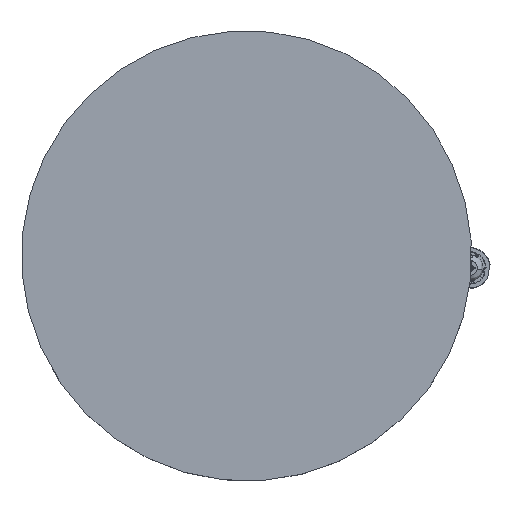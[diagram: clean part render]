
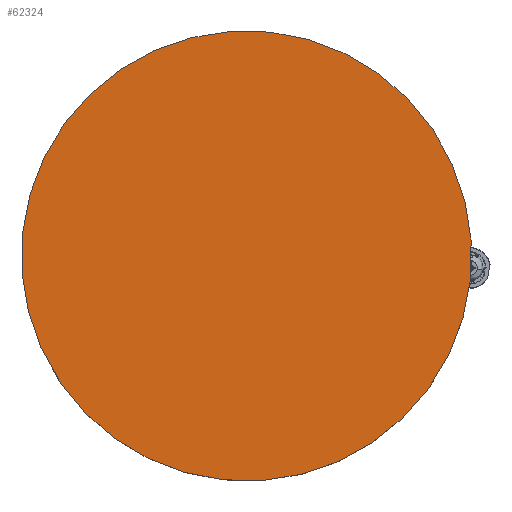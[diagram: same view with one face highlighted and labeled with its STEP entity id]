
A CAD part, top view. The second image highlights one B-rep face of the part: STEP entity #62324.
In plain terms, the highlighted planar face has unit normal (0, 0, 1).
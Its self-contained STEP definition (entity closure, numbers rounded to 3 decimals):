
#263 = DIRECTION ( 'NONE',  ( 1., 0., 0. ) ) ;
#15528 = DIRECTION ( 'NONE',  ( 0., 0., 1. ) ) ;
#18422 = AXIS2_PLACEMENT_3D ( 'NONE', #52669, #51701, #52189 ) ;
#22138 = VERTEX_POINT ( 'NONE', #64575 ) ;
#24061 = CARTESIAN_POINT ( 'NONE',  ( 550., 0., 130. ) ) ;
#24521 = PLANE ( 'NONE',  #40844 ) ;
#28741 = ORIENTED_EDGE ( 'NONE', *, *, #61859, .T. ) ;
#32007 = DIRECTION ( 'NONE',  ( 1., 0., 0. ) ) ;
#32023 = VERTEX_POINT ( 'NONE', #24061 ) ;
#38514 = FACE_OUTER_BOUND ( 'NONE', #94981, .T. ) ;
#40054 = CIRCLE ( 'NONE', #96088, 550. ) ;
#40844 = AXIS2_PLACEMENT_3D ( 'NONE', #99183, #15528, #32007 ) ;
#51701 = DIRECTION ( 'NONE',  ( 0., 0., 1. ) ) ;
#52189 = DIRECTION ( 'NONE',  ( 1., 0., 0. ) ) ;
#52669 = CARTESIAN_POINT ( 'NONE',  ( 0., 0., 130. ) ) ;
#53327 = DIRECTION ( 'NONE',  ( 0., 0., 1. ) ) ;
#59979 = CIRCLE ( 'NONE', #18422, 550. ) ;
#61859 = EDGE_CURVE ( 'NONE', #32023, #22138, #59979, .T. ) ;
#62324 = ADVANCED_FACE ( 'NONE', ( #38514 ), #24521, .T. ) ;
#64575 = CARTESIAN_POINT ( 'NONE',  ( -550., 0., 130. ) ) ;
#83210 = ORIENTED_EDGE ( 'NONE', *, *, #84530, .T. ) ;
#84530 = EDGE_CURVE ( 'NONE', #22138, #32023, #40054, .T. ) ;
#90447 = CARTESIAN_POINT ( 'NONE',  ( 0., 0., 130. ) ) ;
#94981 = EDGE_LOOP ( 'NONE', ( #83210, #28741 ) ) ;
#96088 = AXIS2_PLACEMENT_3D ( 'NONE', #90447, #53327, #263 ) ;
#99183 = CARTESIAN_POINT ( 'NONE',  ( 0., 0., 130. ) ) ;
